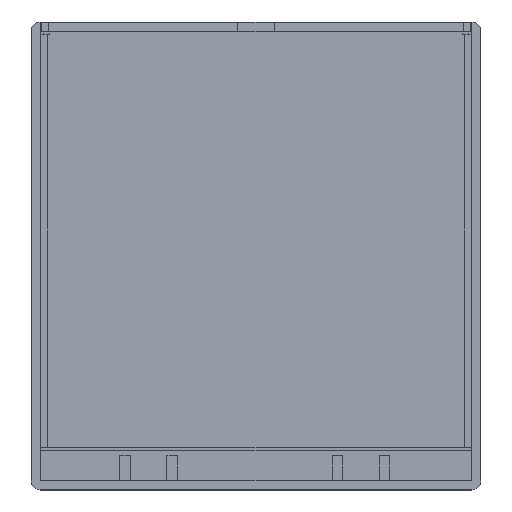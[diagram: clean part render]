
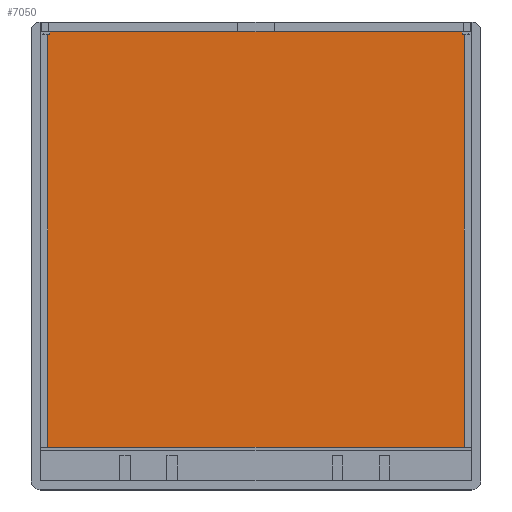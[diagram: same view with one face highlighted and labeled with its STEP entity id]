
A CAD part, top view. The second image highlights one B-rep face of the part: STEP entity #7050.
In plain terms, the highlighted planar face has unit normal (0, 0, 1).
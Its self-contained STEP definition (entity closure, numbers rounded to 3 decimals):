
#2075 = PLANE('',#2076);
#2076 = AXIS2_PLACEMENT_3D('',#2077,#2078,#2079);
#2077 = CARTESIAN_POINT('',(-0.5,0.5,-2.6));
#2078 = DIRECTION('',(0.,1.,0.));
#2079 = DIRECTION('',(0.,0.,1.));
#2953 = PLANE('',#2954);
#2954 = AXIS2_PLACEMENT_3D('',#2955,#2956,#2957);
#2955 = CARTESIAN_POINT('',(-0.5,-70.,-2.6));
#2956 = DIRECTION('',(0.,1.,0.));
#2957 = DIRECTION('',(0.,0.,1.));
#4992 = VERTEX_POINT('',#4993);
#4993 = CARTESIAN_POINT('',(71.,0.5,-2.6));
#5007 = PLANE('',#5008);
#5008 = AXIS2_PLACEMENT_3D('',#5009,#5010,#5011);
#5009 = CARTESIAN_POINT('',(71.,0.,-2.6));
#5010 = DIRECTION('',(1.,0.,0.));
#5011 = DIRECTION('',(0.,0.,1.));
#5019 = EDGE_CURVE('',#5020,#4992,#5022,.T.);
#5020 = VERTEX_POINT('',#5021);
#5021 = CARTESIAN_POINT('',(1.,0.5,-2.6));
#5022 = SURFACE_CURVE('',#5023,(#5027,#5034),.PCURVE_S1.);
#5023 = LINE('',#5024,#5025);
#5024 = CARTESIAN_POINT('',(-0.5,0.5,-2.6));
#5025 = VECTOR('',#5026,1.);
#5026 = DIRECTION('',(1.,0.,0.));
#5027 = PCURVE('',#2075,#5028);
#5028 = DEFINITIONAL_REPRESENTATION('',(#5029),#5033);
#5029 = LINE('',#5030,#5031);
#5030 = CARTESIAN_POINT('',(0.,0.));
#5031 = VECTOR('',#5032,1.);
#5032 = DIRECTION('',(0.,1.));
#5033 = ( GEOMETRIC_REPRESENTATION_CONTEXT(2) 
PARAMETRIC_REPRESENTATION_CONTEXT() REPRESENTATION_CONTEXT('2D SPACE',''
  ) );
#5034 = PCURVE('',#5035,#5040);
#5035 = PLANE('',#5036);
#5036 = AXIS2_PLACEMENT_3D('',#5037,#5038,#5039);
#5037 = CARTESIAN_POINT('',(-0.5,-75.6,-2.6));
#5038 = DIRECTION('',(0.,0.,1.));
#5039 = DIRECTION('',(1.,0.,0.));
#5040 = DEFINITIONAL_REPRESENTATION('',(#5041),#5045);
#5041 = LINE('',#5042,#5043);
#5042 = CARTESIAN_POINT('',(0.,76.1));
#5043 = VECTOR('',#5044,1.);
#5044 = DIRECTION('',(1.,0.));
#5045 = ( GEOMETRIC_REPRESENTATION_CONTEXT(2) 
PARAMETRIC_REPRESENTATION_CONTEXT() REPRESENTATION_CONTEXT('2D SPACE',''
  ) );
#5063 = PLANE('',#5064);
#5064 = AXIS2_PLACEMENT_3D('',#5065,#5066,#5067);
#5065 = CARTESIAN_POINT('',(1.,0.,-2.6));
#5066 = DIRECTION('',(1.,0.,0.));
#5067 = DIRECTION('',(0.,0.,1.));
#6095 = PLANE('',#6096);
#6096 = AXIS2_PLACEMENT_3D('',#6097,#6098,#6099);
#6097 = CARTESIAN_POINT('',(0.7,-70.,-2.6));
#6098 = DIRECTION('',(1.,0.,0.));
#6099 = DIRECTION('',(0.,0.,1.));
#6121 = PLANE('',#6122);
#6122 = AXIS2_PLACEMENT_3D('',#6123,#6124,#6125);
#6123 = CARTESIAN_POINT('',(0.,0.,-2.6));
#6124 = DIRECTION('',(0.,1.,0.));
#6125 = DIRECTION('',(0.,0.,1.));
#6137 = EDGE_CURVE('',#6138,#6140,#6142,.T.);
#6138 = VERTEX_POINT('',#6139);
#6139 = CARTESIAN_POINT('',(0.7,-70.,-2.6));
#6140 = VERTEX_POINT('',#6141);
#6141 = CARTESIAN_POINT('',(71.3,-70.,-2.6));
#6142 = SURFACE_CURVE('',#6143,(#6147,#6154),.PCURVE_S1.);
#6143 = LINE('',#6144,#6145);
#6144 = CARTESIAN_POINT('',(-0.5,-70.,-2.6));
#6145 = VECTOR('',#6146,1.);
#6146 = DIRECTION('',(1.,0.,0.));
#6147 = PCURVE('',#2953,#6148);
#6148 = DEFINITIONAL_REPRESENTATION('',(#6149),#6153);
#6149 = LINE('',#6150,#6151);
#6150 = CARTESIAN_POINT('',(0.,0.));
#6151 = VECTOR('',#6152,1.);
#6152 = DIRECTION('',(0.,1.));
#6153 = ( GEOMETRIC_REPRESENTATION_CONTEXT(2) 
PARAMETRIC_REPRESENTATION_CONTEXT() REPRESENTATION_CONTEXT('2D SPACE',''
  ) );
#6154 = PCURVE('',#5035,#6155);
#6155 = DEFINITIONAL_REPRESENTATION('',(#6156),#6160);
#6156 = LINE('',#6157,#6158);
#6157 = CARTESIAN_POINT('',(0.,5.6));
#6158 = VECTOR('',#6159,1.);
#6159 = DIRECTION('',(1.,0.));
#6160 = ( GEOMETRIC_REPRESENTATION_CONTEXT(2) 
PARAMETRIC_REPRESENTATION_CONTEXT() REPRESENTATION_CONTEXT('2D SPACE',''
  ) );
#6244 = PLANE('',#6245);
#6245 = AXIS2_PLACEMENT_3D('',#6246,#6247,#6248);
#6246 = CARTESIAN_POINT('',(71.3,-70.,-2.6));
#6247 = DIRECTION('',(1.,0.,0.));
#6248 = DIRECTION('',(0.,0.,1.));
#6891 = PLANE('',#6892);
#6892 = AXIS2_PLACEMENT_3D('',#6893,#6894,#6895);
#6893 = CARTESIAN_POINT('',(71.,0.,-2.6));
#6894 = DIRECTION('',(0.,1.,0.));
#6895 = DIRECTION('',(0.,0.,1.));
#7006 = VERTEX_POINT('',#7007);
#7007 = CARTESIAN_POINT('',(1.,0.,-2.6));
#7028 = EDGE_CURVE('',#7006,#5020,#7029,.T.);
#7029 = SURFACE_CURVE('',#7030,(#7034,#7041),.PCURVE_S1.);
#7030 = LINE('',#7031,#7032);
#7031 = CARTESIAN_POINT('',(1.,0.,-2.6));
#7032 = VECTOR('',#7033,1.);
#7033 = DIRECTION('',(0.,1.,0.));
#7034 = PCURVE('',#5063,#7035);
#7035 = DEFINITIONAL_REPRESENTATION('',(#7036),#7040);
#7036 = LINE('',#7037,#7038);
#7037 = CARTESIAN_POINT('',(0.,0.));
#7038 = VECTOR('',#7039,1.);
#7039 = DIRECTION('',(0.,-1.));
#7040 = ( GEOMETRIC_REPRESENTATION_CONTEXT(2) 
PARAMETRIC_REPRESENTATION_CONTEXT() REPRESENTATION_CONTEXT('2D SPACE',''
  ) );
#7041 = PCURVE('',#5035,#7042);
#7042 = DEFINITIONAL_REPRESENTATION('',(#7043),#7047);
#7043 = LINE('',#7044,#7045);
#7044 = CARTESIAN_POINT('',(1.5,75.6));
#7045 = VECTOR('',#7046,1.);
#7046 = DIRECTION('',(0.,1.));
#7047 = ( GEOMETRIC_REPRESENTATION_CONTEXT(2) 
PARAMETRIC_REPRESENTATION_CONTEXT() REPRESENTATION_CONTEXT('2D SPACE',''
  ) );
#7050 = ADVANCED_FACE('',(#7051),#5035,.T.);
#7051 = FACE_BOUND('',#7052,.T.);
#7052 = EDGE_LOOP('',(#7053,#7076,#7097,#7098,#7121,#7144,#7165,#7166));
#7053 = ORIENTED_EDGE('',*,*,#7054,.F.);
#7054 = EDGE_CURVE('',#7055,#7006,#7057,.T.);
#7055 = VERTEX_POINT('',#7056);
#7056 = CARTESIAN_POINT('',(0.7,0.,-2.6));
#7057 = SURFACE_CURVE('',#7058,(#7062,#7069),.PCURVE_S1.);
#7058 = LINE('',#7059,#7060);
#7059 = CARTESIAN_POINT('',(0.,0.,-2.6));
#7060 = VECTOR('',#7061,1.);
#7061 = DIRECTION('',(1.,0.,0.));
#7062 = PCURVE('',#5035,#7063);
#7063 = DEFINITIONAL_REPRESENTATION('',(#7064),#7068);
#7064 = LINE('',#7065,#7066);
#7065 = CARTESIAN_POINT('',(0.5,75.6));
#7066 = VECTOR('',#7067,1.);
#7067 = DIRECTION('',(1.,0.));
#7068 = ( GEOMETRIC_REPRESENTATION_CONTEXT(2) 
PARAMETRIC_REPRESENTATION_CONTEXT() REPRESENTATION_CONTEXT('2D SPACE',''
  ) );
#7069 = PCURVE('',#6121,#7070);
#7070 = DEFINITIONAL_REPRESENTATION('',(#7071),#7075);
#7071 = LINE('',#7072,#7073);
#7072 = CARTESIAN_POINT('',(0.,0.));
#7073 = VECTOR('',#7074,1.);
#7074 = DIRECTION('',(0.,1.));
#7075 = ( GEOMETRIC_REPRESENTATION_CONTEXT(2) 
PARAMETRIC_REPRESENTATION_CONTEXT() REPRESENTATION_CONTEXT('2D SPACE',''
  ) );
#7076 = ORIENTED_EDGE('',*,*,#7077,.F.);
#7077 = EDGE_CURVE('',#6138,#7055,#7078,.T.);
#7078 = SURFACE_CURVE('',#7079,(#7083,#7090),.PCURVE_S1.);
#7079 = LINE('',#7080,#7081);
#7080 = CARTESIAN_POINT('',(0.7,-70.,-2.6));
#7081 = VECTOR('',#7082,1.);
#7082 = DIRECTION('',(0.,1.,0.));
#7083 = PCURVE('',#5035,#7084);
#7084 = DEFINITIONAL_REPRESENTATION('',(#7085),#7089);
#7085 = LINE('',#7086,#7087);
#7086 = CARTESIAN_POINT('',(1.2,5.6));
#7087 = VECTOR('',#7088,1.);
#7088 = DIRECTION('',(0.,1.));
#7089 = ( GEOMETRIC_REPRESENTATION_CONTEXT(2) 
PARAMETRIC_REPRESENTATION_CONTEXT() REPRESENTATION_CONTEXT('2D SPACE',''
  ) );
#7090 = PCURVE('',#6095,#7091);
#7091 = DEFINITIONAL_REPRESENTATION('',(#7092),#7096);
#7092 = LINE('',#7093,#7094);
#7093 = CARTESIAN_POINT('',(0.,0.));
#7094 = VECTOR('',#7095,1.);
#7095 = DIRECTION('',(0.,-1.));
#7096 = ( GEOMETRIC_REPRESENTATION_CONTEXT(2) 
PARAMETRIC_REPRESENTATION_CONTEXT() REPRESENTATION_CONTEXT('2D SPACE',''
  ) );
#7097 = ORIENTED_EDGE('',*,*,#6137,.T.);
#7098 = ORIENTED_EDGE('',*,*,#7099,.T.);
#7099 = EDGE_CURVE('',#6140,#7100,#7102,.T.);
#7100 = VERTEX_POINT('',#7101);
#7101 = CARTESIAN_POINT('',(71.3,0.,-2.6));
#7102 = SURFACE_CURVE('',#7103,(#7107,#7114),.PCURVE_S1.);
#7103 = LINE('',#7104,#7105);
#7104 = CARTESIAN_POINT('',(71.3,-70.,-2.6));
#7105 = VECTOR('',#7106,1.);
#7106 = DIRECTION('',(0.,1.,0.));
#7107 = PCURVE('',#5035,#7108);
#7108 = DEFINITIONAL_REPRESENTATION('',(#7109),#7113);
#7109 = LINE('',#7110,#7111);
#7110 = CARTESIAN_POINT('',(71.8,5.6));
#7111 = VECTOR('',#7112,1.);
#7112 = DIRECTION('',(0.,1.));
#7113 = ( GEOMETRIC_REPRESENTATION_CONTEXT(2) 
PARAMETRIC_REPRESENTATION_CONTEXT() REPRESENTATION_CONTEXT('2D SPACE',''
  ) );
#7114 = PCURVE('',#6244,#7115);
#7115 = DEFINITIONAL_REPRESENTATION('',(#7116),#7120);
#7116 = LINE('',#7117,#7118);
#7117 = CARTESIAN_POINT('',(0.,0.));
#7118 = VECTOR('',#7119,1.);
#7119 = DIRECTION('',(0.,-1.));
#7120 = ( GEOMETRIC_REPRESENTATION_CONTEXT(2) 
PARAMETRIC_REPRESENTATION_CONTEXT() REPRESENTATION_CONTEXT('2D SPACE',''
  ) );
#7121 = ORIENTED_EDGE('',*,*,#7122,.F.);
#7122 = EDGE_CURVE('',#7123,#7100,#7125,.T.);
#7123 = VERTEX_POINT('',#7124);
#7124 = CARTESIAN_POINT('',(71.,0.,-2.6));
#7125 = SURFACE_CURVE('',#7126,(#7130,#7137),.PCURVE_S1.);
#7126 = LINE('',#7127,#7128);
#7127 = CARTESIAN_POINT('',(71.,0.,-2.6));
#7128 = VECTOR('',#7129,1.);
#7129 = DIRECTION('',(1.,0.,0.));
#7130 = PCURVE('',#5035,#7131);
#7131 = DEFINITIONAL_REPRESENTATION('',(#7132),#7136);
#7132 = LINE('',#7133,#7134);
#7133 = CARTESIAN_POINT('',(71.5,75.6));
#7134 = VECTOR('',#7135,1.);
#7135 = DIRECTION('',(1.,0.));
#7136 = ( GEOMETRIC_REPRESENTATION_CONTEXT(2) 
PARAMETRIC_REPRESENTATION_CONTEXT() REPRESENTATION_CONTEXT('2D SPACE',''
  ) );
#7137 = PCURVE('',#6891,#7138);
#7138 = DEFINITIONAL_REPRESENTATION('',(#7139),#7143);
#7139 = LINE('',#7140,#7141);
#7140 = CARTESIAN_POINT('',(0.,0.));
#7141 = VECTOR('',#7142,1.);
#7142 = DIRECTION('',(0.,1.));
#7143 = ( GEOMETRIC_REPRESENTATION_CONTEXT(2) 
PARAMETRIC_REPRESENTATION_CONTEXT() REPRESENTATION_CONTEXT('2D SPACE',''
  ) );
#7144 = ORIENTED_EDGE('',*,*,#7145,.T.);
#7145 = EDGE_CURVE('',#7123,#4992,#7146,.T.);
#7146 = SURFACE_CURVE('',#7147,(#7151,#7158),.PCURVE_S1.);
#7147 = LINE('',#7148,#7149);
#7148 = CARTESIAN_POINT('',(71.,0.,-2.6));
#7149 = VECTOR('',#7150,1.);
#7150 = DIRECTION('',(0.,1.,0.));
#7151 = PCURVE('',#5035,#7152);
#7152 = DEFINITIONAL_REPRESENTATION('',(#7153),#7157);
#7153 = LINE('',#7154,#7155);
#7154 = CARTESIAN_POINT('',(71.5,75.6));
#7155 = VECTOR('',#7156,1.);
#7156 = DIRECTION('',(0.,1.));
#7157 = ( GEOMETRIC_REPRESENTATION_CONTEXT(2) 
PARAMETRIC_REPRESENTATION_CONTEXT() REPRESENTATION_CONTEXT('2D SPACE',''
  ) );
#7158 = PCURVE('',#5007,#7159);
#7159 = DEFINITIONAL_REPRESENTATION('',(#7160),#7164);
#7160 = LINE('',#7161,#7162);
#7161 = CARTESIAN_POINT('',(0.,0.));
#7162 = VECTOR('',#7163,1.);
#7163 = DIRECTION('',(0.,-1.));
#7164 = ( GEOMETRIC_REPRESENTATION_CONTEXT(2) 
PARAMETRIC_REPRESENTATION_CONTEXT() REPRESENTATION_CONTEXT('2D SPACE',''
  ) );
#7165 = ORIENTED_EDGE('',*,*,#5019,.F.);
#7166 = ORIENTED_EDGE('',*,*,#7028,.F.);
